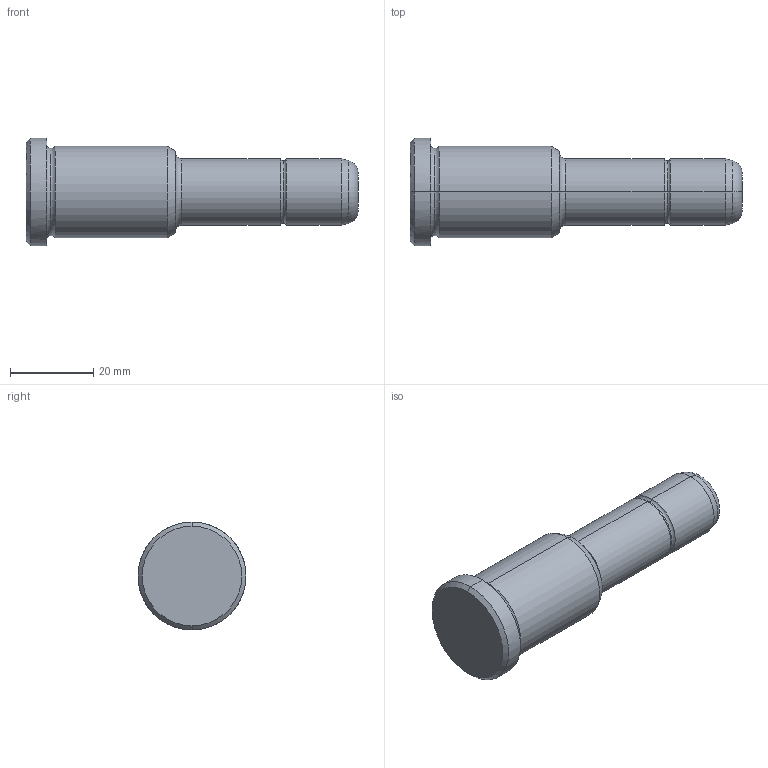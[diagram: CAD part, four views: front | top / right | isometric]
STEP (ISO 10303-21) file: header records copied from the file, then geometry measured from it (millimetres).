
FILE_DESCRIPTION(('CATIA V5 STEP Exchange'),'2;1');
FILE_NAME('C:\Users\Utente\Desktop\IO LAVORO\3D X SITO CF\X SITO\PLASTICA\351\351-16X36X80.stp','2021-08-18T11:38:36+00:00',('none'),('none'),'CATIA Version 5 Release 20 GA (IN-10)','CATIA V5 STEP AP203','none');
FILE_SCHEMA(('CONFIG_CONTROL_DESIGN'));
Length unit declared in the file: millimetre
Products named in the file (1): 351-16X36X80
Bounding box: 80 x 26 x 26 mm (x, y, z)
Volume: 22973.9 mm3; surface area: 5627.7 mm2
Topology: 1 solids, 1 shells, 30 faces, 86 edges, 60 vertices
Faces by surface type: torus 12, cylinder 8, cone 6, plane 4
Entity records: 1112 total; most frequent: CARTESIAN_POINT 289, ORIENTED_EDGE 172, DIRECTION 138, AXIS2_PLACEMENT_3D 95, EDGE_CURVE 86, CIRCLE 64, VERTEX_POINT 60, EDGE_LOOP 32
